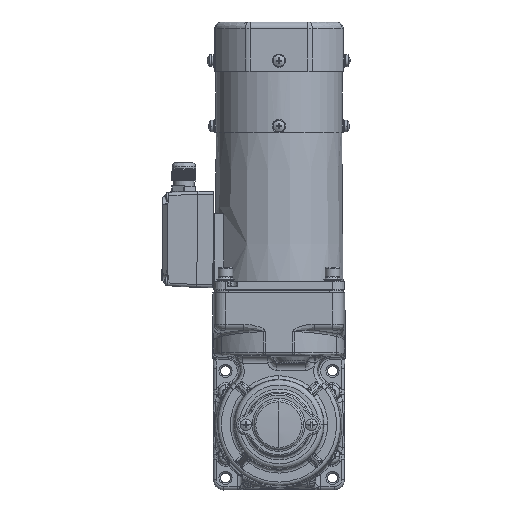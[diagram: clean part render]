
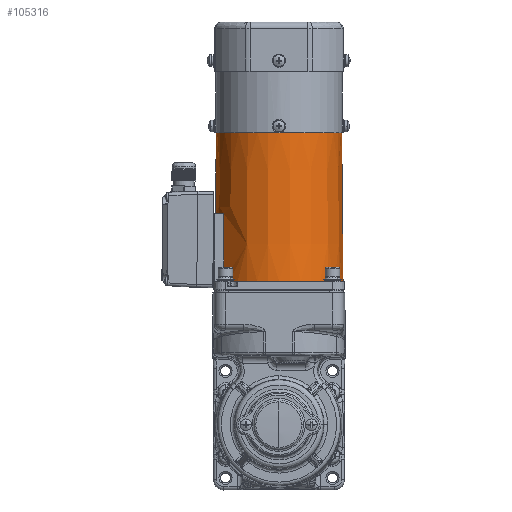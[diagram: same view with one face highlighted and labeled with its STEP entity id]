
A CAD part, left-side view. The second image highlights one B-rep face of the part: STEP entity #105316.
In plain terms, the highlighted conical face has half-angle 0.5 degrees and reference radius 44 mm.
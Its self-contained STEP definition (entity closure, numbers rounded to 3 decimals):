
#5366 = ORIENTED_EDGE ( 'NONE', *, *, #33514, .F. ) ;
#7470 = CARTESIAN_POINT ( 'NONE',  ( 20.734, 15.999, 200.631 ) ) ;
#9596 = LINE ( 'NONE', #124635, #102159 ) ;
#10206 = LINE ( 'NONE', #68321, #43210 ) ;
#13075 = AXIS2_PLACEMENT_3D ( 'NONE', #40284, #58160, #47934 ) ;
#16471 = CARTESIAN_POINT ( 'NONE',  ( 20.724, 16.017, 200.605 ) ) ;
#17494 = AXIS2_PLACEMENT_3D ( 'NONE', #112252, #55333, #26613 ) ;
#18964 = CARTESIAN_POINT ( 'NONE',  ( 20.817, 15.851, 200.738 ) ) ;
#19813 = DIRECTION ( 'NONE',  ( 0.009, 0., -1. ) ) ;
#21273 = ORIENTED_EDGE ( 'NONE', *, *, #124615, .T. ) ;
#22776 = CONICAL_SURFACE ( 'NONE', #37154, 44., 0.009 ) ;
#25584 = CIRCLE ( 'NONE', #17494, 43.11 ) ;
#26613 = DIRECTION ( 'NONE',  ( -1., 0., 0. ) ) ;
#26644 = CARTESIAN_POINT ( 'NONE',  ( 20.753, 15.964, 200.669 ) ) ;
#27265 = CARTESIAN_POINT ( 'NONE',  ( 20.779, 15.919, 200.706 ) ) ;
#29384 = CARTESIAN_POINT ( 'NONE',  ( -17.171, -5.538, 154.25 ) ) ;
#30191 = CIRCLE ( 'NONE', #75308, 44. ) ;
#30379 = B_SPLINE_CURVE_WITH_KNOTS ( 'NONE', 3,
 ( #55366, #64339, #54727, #103961, #16471, #7470, #95607, #125627, #38112, #46409, #26644, #97506, #27265, #18964, #77055, #114796 ),
 .UNSPECIFIED., .F., .F.,
 ( 4, 2, 2, 1, 1, 2, 2, 2, 4 ),
 ( 0., 0.25, 0.375, 0.438, 0.469, 0.484, 0.5, 0.75, 1. ),
 .UNSPECIFIED. ) ;
#33514 = EDGE_CURVE ( 'NONE', #108770, #42370, #30379, .T. ) ;
#37002 = CARTESIAN_POINT ( 'NONE',  ( 26.424, -5.538, 200.75 ) ) ;
#37109 = DIRECTION ( 'NONE',  ( -0.009, 0., -1. ) ) ;
#37154 = AXIS2_PLACEMENT_3D ( 'NONE', #41496, #120054, #111094 ) ;
#38112 = CARTESIAN_POINT ( 'NONE',  ( 20.749, 15.97, 200.663 ) ) ;
#39527 = VERTEX_POINT ( 'NONE', #114815 ) ;
#40284 = CARTESIAN_POINT ( 'NONE',  ( -17.171, -5.538, 200.75 ) ) ;
#41496 = CARTESIAN_POINT ( 'NONE',  ( -17.171, -5.538, 154.25 ) ) ;
#41947 = EDGE_CURVE ( 'NONE', #39527, #59010, #30191, .T. ) ;
#42370 = VERTEX_POINT ( 'NONE', #45442 ) ;
#42958 = EDGE_CURVE ( 'NONE', #108770, #39527, #50644, .T. ) ;
#43210 = VECTOR ( 'NONE', #19813, 1000. ) ;
#45442 = CARTESIAN_POINT ( 'NONE',  ( 20.868, 15.759, 200.75 ) ) ;
#45522 = CARTESIAN_POINT ( 'NONE',  ( 25.939, -5.538, 256.25 ) ) ;
#46409 = CARTESIAN_POINT ( 'NONE',  ( 20.751, 15.967, 200.666 ) ) ;
#47934 = DIRECTION ( 'NONE',  ( -1., 0., 0. ) ) ;
#50644 = B_SPLINE_CURVE_WITH_KNOTS ( 'NONE', 3,
 ( #74207, #85684, #114466, #112571 ),
 .UNSPECIFIED., .F., .F.,
 ( 4, 4 ),
 ( 0., 0.046 ),
 .UNSPECIFIED. ) ;
#51490 = EDGE_CURVE ( 'NONE', #96351, #94215, #10206, .T. ) ;
#54727 = CARTESIAN_POINT ( 'NONE',  ( 20.705, 16.051, 200.53 ) ) ;
#55333 = DIRECTION ( 'NONE',  ( 0., 0., -1. ) ) ;
#55366 = CARTESIAN_POINT ( 'NONE',  ( 20.701, 16.059, 200.453 ) ) ;
#58160 = DIRECTION ( 'NONE',  ( 0., 0., 1. ) ) ;
#59010 = VERTEX_POINT ( 'NONE', #92993 ) ;
#59382 = FACE_OUTER_BOUND ( 'NONE', #84953, .T. ) ;
#63035 = CARTESIAN_POINT ( 'NONE',  ( -60.28, -5.538, 256.25 ) ) ;
#64339 = CARTESIAN_POINT ( 'NONE',  ( 20.701, 16.058, 200.491 ) ) ;
#68321 = CARTESIAN_POINT ( 'NONE',  ( 26.829, -5.538, 154.25 ) ) ;
#68326 = DIRECTION ( 'NONE',  ( -1., 0., 0. ) ) ;
#70950 = ORIENTED_EDGE ( 'NONE', *, *, #75465, .T. ) ;
#71245 = ORIENTED_EDGE ( 'NONE', *, *, #42958, .T. ) ;
#72896 = CARTESIAN_POINT ( 'NONE',  ( 20.701, 16.059, 200.453 ) ) ;
#74207 = CARTESIAN_POINT ( 'NONE',  ( 20.701, 16.059, 200.453 ) ) ;
#75308 = AXIS2_PLACEMENT_3D ( 'NONE', #29384, #117536, #68326 ) ;
#75465 = EDGE_CURVE ( 'NONE', #94215, #42370, #121221, .T. ) ;
#77055 = CARTESIAN_POINT ( 'NONE',  ( 20.84, 15.808, 200.75 ) ) ;
#84953 = EDGE_LOOP ( 'NONE', ( #21273, #96253, #70950, #5366, #71245, #113920, #112475 ) ) ;
#85684 = CARTESIAN_POINT ( 'NONE',  ( 20.779, 16.193, 185.052 ) ) ;
#86394 = EDGE_CURVE ( 'NONE', #86486, #59010, #9596, .T. ) ;
#86486 = VERTEX_POINT ( 'NONE', #63035 ) ;
#92993 = CARTESIAN_POINT ( 'NONE',  ( -61.171, -5.538, 154.25 ) ) ;
#94215 = VERTEX_POINT ( 'NONE', #37002 ) ;
#95607 = CARTESIAN_POINT ( 'NONE',  ( 20.739, 15.989, 200.643 ) ) ;
#96253 = ORIENTED_EDGE ( 'NONE', *, *, #51490, .T. ) ;
#96351 = VERTEX_POINT ( 'NONE', #45522 ) ;
#97506 = CARTESIAN_POINT ( 'NONE',  ( 20.764, 15.944, 200.687 ) ) ;
#102159 = VECTOR ( 'NONE', #37109, 1000. ) ;
#103961 = CARTESIAN_POINT ( 'NONE',  ( 20.718, 16.027, 200.587 ) ) ;
#105316 = ADVANCED_FACE ( 'NONE', ( #59382 ), #22776, .T. ) ;
#108770 = VERTEX_POINT ( 'NONE', #72896 ) ;
#111094 = DIRECTION ( 'NONE',  ( -1., 0., 0. ) ) ;
#112252 = CARTESIAN_POINT ( 'NONE',  ( -17.171, -5.538, 256.25 ) ) ;
#112475 = ORIENTED_EDGE ( 'NONE', *, *, #86394, .F. ) ;
#112571 = CARTESIAN_POINT ( 'NONE',  ( 20.935, 16.462, 154.25 ) ) ;
#113920 = ORIENTED_EDGE ( 'NONE', *, *, #41947, .T. ) ;
#114466 = CARTESIAN_POINT ( 'NONE',  ( 20.857, 16.328, 169.651 ) ) ;
#114796 = CARTESIAN_POINT ( 'NONE',  ( 20.868, 15.759, 200.75 ) ) ;
#114815 = CARTESIAN_POINT ( 'NONE',  ( 20.935, 16.462, 154.25 ) ) ;
#117536 = DIRECTION ( 'NONE',  ( 0., 0., 1. ) ) ;
#120054 = DIRECTION ( 'NONE',  ( 0., 0., -1. ) ) ;
#121221 = CIRCLE ( 'NONE', #13075, 43.594 ) ;
#124615 = EDGE_CURVE ( 'NONE', #86486, #96351, #25584, .T. ) ;
#124635 = CARTESIAN_POINT ( 'NONE',  ( -61.171, -5.538, 154.25 ) ) ;
#125627 = CARTESIAN_POINT ( 'NONE',  ( 20.746, 15.976, 200.657 ) ) ;
